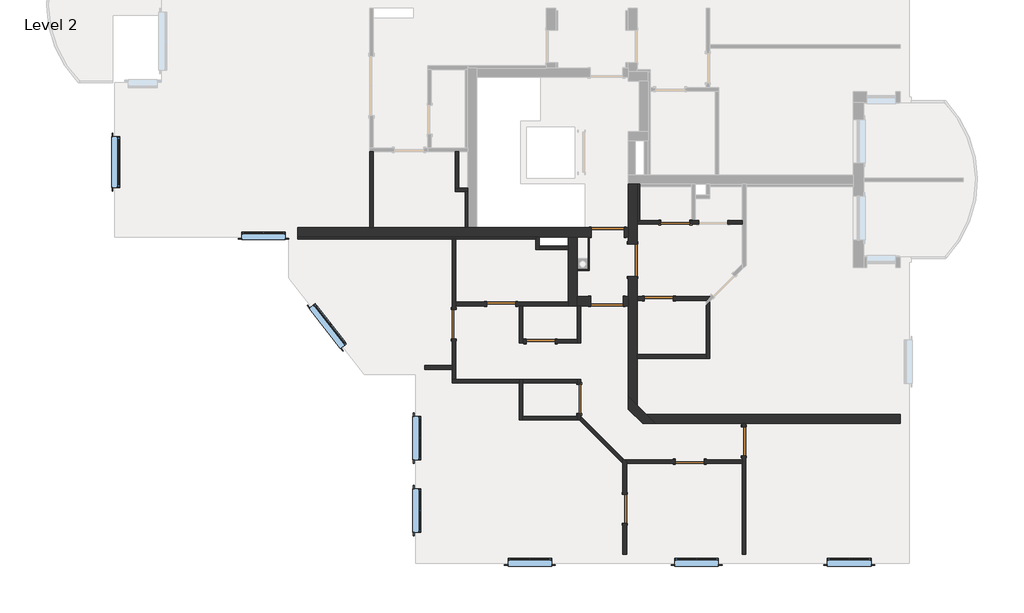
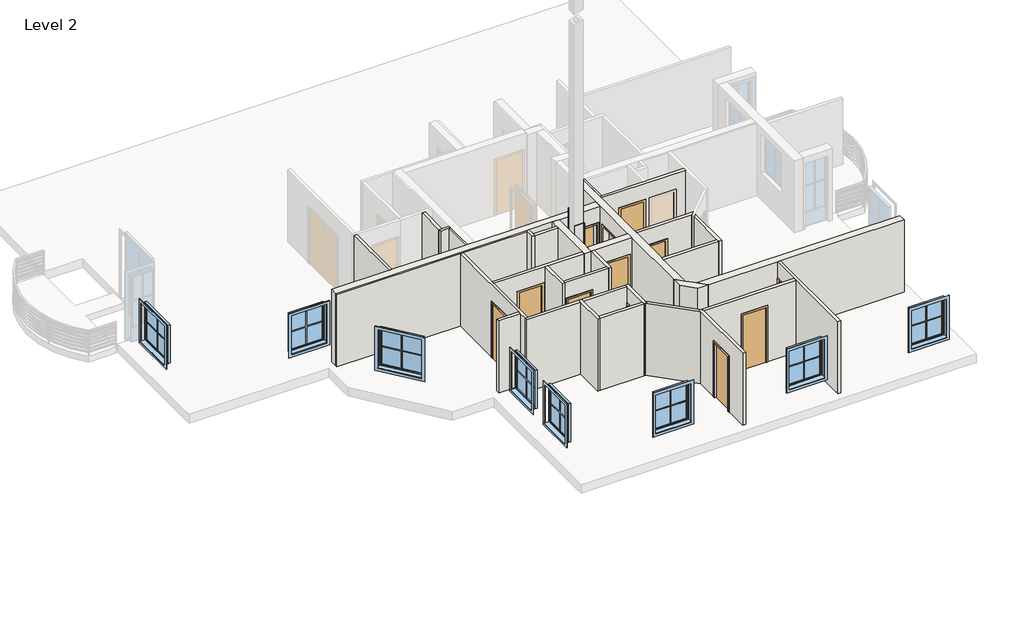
# One storey, part 1 of 4: 35 walls, 12 doors, 8 windows.
"""IFC4 building model written with IfcOpenShell, lengths in millimetres."""

from ifc_helpers import new_model, si_unit, frame, origin, place, context, project, spatial, polyline, outline, extrude, faceted_brep, transform, mapped, element, save
from components import standard_door_sd_800x2000_6a16926d, standard_door_sd_800x2000_80f4ff25, standard_door_sd_900x2000_a6683946, standard_door_sd_900x2000_4224ae2a, standard_window_with_mullions_d3525f46, standard_window_with_mullions_80486b60

model = new_model("IFC4")

# Units and contexts
model_context = context("Model", 3, world=origin())
ifc_project = project(units=[si_unit("LENGTHUNIT", "METRE", prefix="MILLI")], contexts=[model_context])

# Site, building, storey
site = spatial("IfcSite", under=ifc_project)
building = spatial("IfcBuilding", under=site)
storey = spatial("IfcBuildingStorey", under=building, Name="Level 2", Elevation=5900.0)

# Doors
placement = place(None, origin())
standard_door_sd_800x2000_shape = standard_door_sd_800x2000_6a16926d(model_context)
element("IfcDoor", 1, ObjectType="Standard Door : SD 800x2000", at=placement, inside=storey, context=model_context, shape_type="MappedRepresentation", body=[
    mapped(standard_door_sd_800x2000_shape, transform((3260.550214, -8282.3709459, 5900.0), x_axis=(0.9999999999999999, 0.0, 0.0), y_axis=(0.0, 0.9999999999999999, 0.0), z_axis=(0.0, 0.0, 1.0))),
])
standard_door_sd_800x2000_2_shape = standard_door_sd_800x2000_80f4ff25(model_context)
element("IfcDoor", 2, ObjectType="Standard Door : SD 800x2000", at=placement, inside=storey, context=model_context, shape_type="MappedRepresentation", body=[
    mapped(standard_door_sd_800x2000_2_shape, transform((2865.7332503, -1682.3709459, 5900.0), x_axis=(-1.0, 0.0, 0.0), y_axis=(0.0, -1.0, 0.0), z_axis=(0.0, 0.0, 1.0))),
])
element("IfcDoor", 3, ObjectType="Standard Door : SD 800x2000", at=placement, inside=storey, context=model_context, shape_type="MappedRepresentation", body=[
    mapped(standard_door_sd_800x2000_2_shape, transform((2412.0268037, -3782.3709459, 5900.0), x_axis=(1.0, 0.0, 0.0), y_axis=(0.0, 1.0, 0.0), z_axis=(0.0, 0.0, 1.0))),
])
element("IfcDoor", 4, ObjectType="Standard Door : SD 800x2000", at=placement, inside=storey, context=model_context, shape_type="MappedRepresentation", body=[
    mapped(standard_door_sd_800x2000_2_shape, transform((-1935.2960431, -3932.3709459, 5900.0), x_axis=(1.0, 0.0, 0.0), y_axis=(0.0, 1.0, 0.0), z_axis=(0.0, 0.0, 1.0))),
])
element("IfcDoor", 5, ObjectType="Standard Door : SD 800x2000", at=placement, inside=storey, context=model_context, shape_type="MappedRepresentation", body=[
    mapped(standard_door_sd_800x2000_2_shape, transform((-847.1962165, -4962.3709459, 5900.0), x_axis=(1.0, 0.0, 0.0), y_axis=(0.0, 1.0, 0.0), z_axis=(0.0, 0.0, 1.0))),
])
element("IfcDoor", 6, ObjectType="Standard Door : SD 800x2000", at=placement, inside=storey, context=model_context, shape_type="MappedRepresentation", body=[
    mapped(standard_door_sd_800x2000_2_shape, transform((-3237.1962165, -4492.2910381, 5900.0), x_axis=(0.0, 1.0, 0.0), y_axis=(-1.0, 0.0, 0.0), z_axis=(0.0, 0.0, 1.0))),
])
element("IfcDoor", 7, ObjectType="Standard Door : SD 800x2000", at=placement, inside=storey, context=model_context, shape_type="MappedRepresentation", body=[
    mapped(standard_door_sd_800x2000_2_shape, transform((212.8037835, -6551.9513234, 5900.0), x_axis=(0.0, -1.0, 0.0), y_axis=(1.0, 0.0, 0.0), z_axis=(0.0, 0.0, 1.0))),
])
element("IfcDoor", 8, ObjectType="Standard Door : SD 800x2000", at=placement, inside=storey, context=model_context, shape_type="MappedRepresentation", body=[
    mapped(standard_door_sd_800x2000_2_shape, transform((4753.039213, -7722.1014891, 5900.0), x_axis=(0.0, -1.0, 0.0), y_axis=(1.0, 0.0, 0.0), z_axis=(0.0, 0.0, 1.0))),
])
element("IfcDoor", 9, ObjectType="Standard Door : SD 800x2000", at=placement, inside=storey, context=model_context, shape_type="MappedRepresentation", body=[
    mapped(standard_door_sd_800x2000_2_shape, transform((1471.3824272, -9582.3709459, 5900.0), x_axis=(0.0, -0.9999999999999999, 0.0), y_axis=(0.9999999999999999, 0.0, 0.0), z_axis=(0.0, 0.0, 1.0))),
])
standard_door_sd_900x2000_shape = standard_door_sd_900x2000_a6683946(model_context)
element("IfcDoor", 10, ObjectType="Standard Door : SD 900x2000", at=placement, inside=storey, context=model_context, shape_type="MappedRepresentation", body=[
    mapped(standard_door_sd_900x2000_shape, transform((1002.8073642, -1957.3709459, 5900.0), x_axis=(-1.0, 0.0, 0.0), y_axis=(0.0, -1.0, 0.0), z_axis=(0.0, 0.0, 1.0))),
])
standard_door_sd_900x2000_2_shape = standard_door_sd_900x2000_4224ae2a(model_context)
element("IfcDoor", 11, ObjectType="Standard Door : SD 900x2000", at=placement, inside=storey, context=model_context, shape_type="MappedRepresentation", body=[
    mapped(standard_door_sd_900x2000_2_shape, transform((980.1794135, -3857.3709459, 5900.0), x_axis=(-1.0, 0.0, 0.0), y_axis=(0.0, -1.0, 0.0), z_axis=(0.0, 0.0, 1.0))),
])
element("IfcDoor", 12, ObjectType="Standard Door : SD 900x2000", at=placement, inside=storey, context=model_context, shape_type="MappedRepresentation", body=[
    mapped(standard_door_sd_900x2000_2_shape, transform((1687.8070318, -2727.079256, 5900.0), x_axis=(-8.145451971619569e-07, -0.9999999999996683, 0.0), y_axis=(0.9999999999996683, -8.145451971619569e-07, 0.0), z_axis=(0.0, 0.0, 1.0))),
])

# Walls
element("IfcWall", 13, ObjectType="Interior - 100mm", at=placement, inside=storey, context=model_context, shape_type="SweptSolid", body=[
    extrude(outline(polyline([(-3207.1962165, -732.3709459), (-3207.1962165, 267.6290541), (-3107.1962165, 267.6290541), (-3107.1962165, -732.3709459), (-3207.1962165, -732.3709459)])), frame((0.0, 0.0, 5900.0), z_axis=(0.0, 0.0, 1.0), x_axis=(1.0, 0.0, 0.0)), (0.0, 0.0, 1.0), 2630.0),
])
element("IfcWall", 14, ObjectType="Interior - 100mm", at=placement, inside=storey, context=model_context, shape_type="Brep", body=[
    faceted_brep([(-3207.1962165, -832.3709459, 5900.0), (-2922.1962165, -832.3709459, 5900.0), (-2857.1962165, -832.3709459, 5900.0), (-2857.1962165, -832.3709459, 8530.0), (-2922.1962165, -832.3709459, 8530.0), (-3207.1962165, -832.3709459, 8530.0), (-3207.1962165, -732.3709459, 5900.0), (-3207.1962165, -732.3709459, 8530.0), (-3107.1962165, -732.3709459, 8530.0), (-2857.1962165, -732.3709459, 8530.0), (-2857.1962165, -732.3709459, 5900.0), (-3107.1962165, -732.3709459, 5900.0)], [[[0, 1, 2, 3, 4, 5]], [[6, 7, 8, 9, 10, 11]], [[2, 1, 0, 6, 11, 10]], [[0, 5, 7, 6]], [[3, 2, 10, 9]], [[5, 4, 3, 9, 8, 7]]]),
])
element("IfcWall", 15, ObjectType="Interior - 100mm", at=placement, inside=storey, context=model_context, shape_type="Brep", body=[
    faceted_brep([(-986.4381272, -2082.3709459, 5900.0), (-986.4381272, -2147.3709459, 5900.0), (-986.4381272, -2432.3709459, 5900.0), (-986.4381272, -2432.3709459, 8530.0), (-986.4381272, -2147.3709459, 8530.0), (-986.4381272, -2082.3709459, 8530.0), (-886.4381272, -2082.3709459, 5900.0), (-886.4381272, -2082.3709459, 8530.0), (-886.4381272, -2332.3709459, 8530.0), (-886.4381272, -2432.3709459, 8530.0), (-886.4381272, -2432.3709459, 5900.0), (-886.4381272, -2332.3709459, 5900.0)], [[[0, 1, 2, 3, 4, 5]], [[6, 7, 8, 9, 10, 11]], [[2, 1, 0, 6, 11, 10]], [[3, 2, 10, 9]], [[0, 5, 7, 6]], [[5, 4, 3, 9, 8, 7]]]),
])
element("IfcWall", 16, ObjectType="Interior - 100mm", at=placement, inside=storey, context=model_context, shape_type="SweptSolid", body=[
    extrude(outline(polyline([(-86.4381272, -2432.3709459), (-886.4381272, -2432.3709459), (-886.4381272, -2332.3709459), (-86.4381272, -2332.3709459), (-86.4381272, -2432.3709459)])), frame((0.0, 0.0, 5900.0), z_axis=(0.0, 0.0, 1.0), x_axis=(1.0, 0.0, 0.0)), (0.0, 0.0, 1.0), 2630.0),
])
element("IfcWall", 17, ObjectType="Interior - 100mm", at=placement, inside=storey, context=model_context, shape_type="Brep", body=[
    faceted_brep([(4703.039213, -7232.3709459, 5900.0), (4803.039213, -7232.3709459, 5900.0), (4803.039213, -7322.1014891, 5900.0), (4703.039213, -7322.1014891, 5900.0), (4803.039213, -10832.3709459, 5900.0), (4703.039213, -10832.3709459, 5900.0), (4703.039213, -8332.3709459, 5900.0), (4703.039213, -8232.3709459, 5900.0), (4703.039213, -8122.1014891, 5900.0), (4803.039213, -8122.1014891, 5900.0), (4703.039213, -7232.3709459, 8530.0), (4703.039213, -7322.1014891, 7900.0), (4703.039213, -8122.1014891, 7900.0), (4703.039213, -10832.3709459, 8530.0), (4703.039213, -8332.3709459, 8530.0), (4703.039213, -8232.3709459, 8530.0), (4803.039213, -7232.3709459, 8530.0), (4803.039213, -10832.3709459, 8530.0), (4803.039213, -8122.1014891, 7900.0), (4803.039213, -7322.1014891, 7900.0)], [[[0, 1, 2, 3]], [[4, 5, 6, 7, 8, 9]], [[10, 0, 3, 11, 12, 8, 7, 6, 5, 13, 14, 15]], [[1, 16, 17, 4, 9, 18, 19, 2]], [[0, 10, 16, 1]], [[13, 5, 4, 17]], [[10, 15, 14, 13, 17, 16]], [[12, 18, 9, 8]], [[18, 12, 11, 19]], [[19, 11, 3, 2]]]),
])
element("IfcWall", 18, ObjectType="Interior - 100mm", at=placement, inside=storey, context=model_context, shape_type="Brep", body=[
    faceted_brep([(1421.3824272, -10832.3709459, 5900.0), (1421.3824272, -9982.3709459, 5900.0), (1521.3824272, -9982.3709459, 5900.0), (1521.3824272, -10832.3709459, 5900.0), (1421.3824272, -9182.3709459, 5900.0), (1421.3824272, -8332.3709459, 5900.0), (1421.3824272, -8190.9495897, 5900.0), (1462.8037835, -8232.3709459, 5900.0), (1521.3824272, -8290.9495897, 5900.0), (1521.3824272, -8332.3709459, 5900.0), (1521.3824272, -9182.3709459, 5900.0), (1421.3824272, -9982.3709459, 7900.0), (1421.3824272, -10832.3709459, 8530.0), (1421.3824272, -8332.3709459, 8530.0), (1421.3824272, -8190.9495897, 8530.0), (1421.3824272, -9182.3709459, 7900.0), (1521.3824272, -9982.3709459, 7900.0), (1521.3824272, -9182.3709459, 7900.0), (1521.3824272, -8290.9495897, 8530.0), (1521.3824272, -8332.3709459, 8530.0), (1521.3824272, -10832.3709459, 8530.0), (1462.8037835, -8232.3709459, 8530.0)], [[[0, 1, 2, 3]], [[4, 5, 6, 7, 8, 9, 10]], [[11, 1, 0, 12, 13, 14, 6, 5, 4, 15]], [[3, 2, 16, 17, 10, 9, 8, 18, 19, 20]], [[6, 14, 21, 18, 8, 7]], [[12, 0, 3, 20]], [[14, 13, 12, 20, 19, 18, 21]], [[16, 2, 1, 11]], [[17, 16, 11, 15]], [[10, 17, 15, 4]]]),
])
element("IfcWall", 19, ObjectType="Interior - 100mm", at=placement, inside=storey, context=model_context, shape_type="Brep", body=[
    faceted_brep([(3712.8037835, -3973.7923022, 5900.0), (3712.8037835, -5332.3709459, 5900.0), (3712.8037835, -5432.3709459, 5900.0), (3712.8037835, -5432.3709459, 8530.0), (3712.8037835, -5332.3709459, 8530.0), (3712.8037835, -3973.7923022, 8530.0), (3812.8037835, -3873.7923022, 5900.0), (3812.8037835, -3873.7923022, 8530.0), (3812.8037835, -5432.3709459, 8530.0), (3812.8037835, -5432.3709459, 5900.0)], [[[0, 1, 2, 3, 4, 5]], [[6, 7, 8, 9]], [[2, 1, 0, 6, 9]], [[3, 2, 9, 8]], [[0, 5, 7, 6]], [[5, 4, 3, 8, 7]]]),
])
element("IfcWall", 20, ObjectType="Interior - 100mm", at=placement, inside=storey, context=model_context, shape_type="SweptSolid", body=[
    extrude(outline(polyline([(1812.8049097, -5332.3709459), (3712.8037835, -5332.3709459), (3712.8037835, -5432.3709459), (1812.8048282, -5432.3709459), (1812.8049097, -5332.3709459)])), frame((0.0, 0.0, 5900.0), z_axis=(0.0, 0.0, 1.0), x_axis=(1.0, 0.0, 0.0)), (0.0, 0.0, 1.0), 2630.0),
])
element("IfcWall", 21, ObjectType="Interior - 100mm", at=placement, inside=storey, context=model_context, shape_type="Brep", body=[
    faceted_brep([(3712.8037835, -3832.3709459, 5900.0), (2812.0268037, -3832.3709459, 5900.0), (2812.0268037, -3732.3709459, 5900.0), (3812.8037835, -3732.3709459, 5900.0), (2012.0268037, -3832.3709459, 5900.0), (1812.8061315, -3832.3709459, 5900.0), (1812.806213, -3732.3709459, 5900.0), (2012.0268037, -3732.3709459, 5900.0), (2812.0268037, -3732.3709459, 7900.0), (2012.0268037, -3732.3709459, 7900.0), (1812.806213, -3732.3709459, 8530.0), (3812.8037835, -3732.3709459, 8530.0), (2812.0268037, -3832.3709459, 7900.0), (3712.8037835, -3832.3709459, 8530.0), (1812.8061315, -3832.3709459, 8530.0), (2012.0268037, -3832.3709459, 7900.0)], [[[0, 1, 2, 3]], [[4, 5, 6, 7]], [[3, 2, 8, 9, 7, 6, 10, 11]], [[12, 1, 0, 13, 14, 5, 4, 15]], [[10, 6, 5, 14]], [[3, 11, 13, 0]], [[11, 10, 14, 13]], [[8, 2, 1, 12]], [[9, 8, 12, 15]], [[7, 9, 15, 4]]]),
])
element("IfcWall", 22, ObjectType="Interior - 100mm", at=placement, inside=storey, context=model_context, shape_type="Brep", body=[
    faceted_brep([(4712.8037835, -1732.3709459, 5900.0), (4309.4426418, -1732.3709459, 5900.0), (4309.4426418, -1632.3709459, 5900.0), (4712.8037835, -1632.3709459, 5900.0), (1812.8079235, -1632.3709459, 5900.0), (1877.8037835, -1632.3709459, 5900.0), (2465.7332503, -1632.3709459, 5900.0), (2465.7332503, -1732.3709459, 5900.0), (1812.8078421, -1732.3709459, 5900.0), (3265.7332503, -1632.3709459, 5900.0), (3312.8037835, -1632.3709459, 5900.0), (3412.8037835, -1632.3709459, 5900.0), (3509.4426418, -1632.3709459, 5900.0), (3509.4426418, -1732.3709459, 5900.0), (3265.7332503, -1732.3709459, 5900.0), (2465.7332503, -1632.3709459, 7900.0), (1812.8079235, -1632.3709459, 8530.0), (1877.8037835, -1632.3709459, 8530.0), (3312.8037835, -1632.3709459, 8530.0), (3412.8037835, -1632.3709459, 8530.0), (4712.8037835, -1632.3709459, 8530.0), (4309.4426418, -1632.3709459, 7900.0), (3509.4426418, -1632.3709459, 7900.0), (3265.7332503, -1632.3709459, 7900.0), (2465.7332503, -1732.3709459, 7900.0), (3265.7332503, -1732.3709459, 7900.0), (3509.4426418, -1732.3709459, 7900.0), (4309.4426418, -1732.3709459, 7900.0), (4712.8037835, -1732.3709459, 8530.0), (1812.8078421, -1732.3709459, 8530.0)], [[[0, 1, 2, 3]], [[4, 5, 6, 7, 8]], [[9, 10, 11, 12, 13, 14]], [[15, 6, 5, 4, 16, 17, 18, 19, 20, 3, 2, 21, 22, 12, 11, 10, 9, 23]], [[8, 7, 24, 25, 14, 13, 26, 27, 1, 0, 28, 29]], [[16, 4, 8, 29]], [[3, 20, 28, 0]], [[20, 19, 18, 17, 16, 29, 28]], [[21, 2, 1, 27]], [[22, 21, 27, 26]], [[12, 22, 26, 13]], [[24, 7, 6, 15]], [[25, 24, 15, 23]], [[14, 25, 23, 9]]]),
])
element("IfcWall", 23, ObjectType="Interior - 100mm", at=placement, inside=storey, context=model_context, shape_type="SweptSolid", body=[
    extrude(outline(polyline([(-5457.1962165, 267.6290541), (-5457.1962165, -1832.3709459), (-5557.1962165, -1832.3709459), (-5557.1962165, 267.6290541), (-5457.1962165, 267.6290541)])), frame((0.0, 0.0, 5900.0), z_axis=(0.0, 0.0, 1.0), x_axis=(1.0, 0.0, 0.0)), (0.0, 0.0, 1.0), 2630.0),
])
element("IfcWall", 24, ObjectType="Interior - 100mm", at=placement, inside=storey, context=model_context, shape_type="Brep", body=[
    faceted_brep([(4703.039213, -8332.3709459, 5900.0), (3660.550214, -8332.3709459, 5900.0), (3660.550214, -8232.3709459, 5900.0), (4703.039213, -8232.3709459, 5900.0), (2860.550214, -8332.3709459, 5900.0), (1521.3824272, -8332.3709459, 5900.0), (1521.3824272, -8290.9495897, 5900.0), (1462.8037835, -8232.3709459, 5900.0), (2860.550214, -8232.3709459, 5900.0), (3660.550214, -8232.3709459, 7900.0), (2860.550214, -8232.3709459, 7900.0), (1462.8037835, -8232.3709459, 8530.0), (4703.039213, -8232.3709459, 8530.0), (3660.550214, -8332.3709459, 7900.0), (4703.039213, -8332.3709459, 8530.0), (1521.3824272, -8332.3709459, 8530.0), (2860.550214, -8332.3709459, 7900.0), (1521.3824272, -8290.9495897, 8530.0)], [[[0, 1, 2, 3]], [[4, 5, 6, 7, 8]], [[3, 2, 9, 10, 8, 7, 11, 12]], [[13, 1, 0, 14, 15, 5, 4, 16]], [[3, 12, 14, 0]], [[11, 7, 6, 17]], [[6, 5, 15, 17]], [[12, 11, 17, 15, 14]], [[9, 2, 1, 13]], [[10, 9, 13, 16]], [[8, 10, 16, 4]]]),
])
element("IfcWall", 25, ObjectType="Interior - 100mm", at=placement, inside=storey, context=model_context, shape_type="SweptSolid", body=[
    extrude(outline(polyline([(1421.3824272, -8332.3709459), (221.3824272, -7132.3709459), (262.8037835, -7132.3709459), (262.8037835, -7032.3709459), (1421.3824272, -8190.9495897), (1421.3824272, -8332.3709459)])), frame((0.0, 0.0, 5900.0), z_axis=(0.0, 0.0, 1.0), x_axis=(1.0, 0.0, 0.0)), (0.0, 0.0, 1.0), 2630.0),
])
element("IfcWall", 26, ObjectType="Interior - 100mm", at=placement, inside=storey, context=model_context, shape_type="SweptSolid", body=[
    extrude(outline(polyline([(7900.0, -447.1962165), (5900.0, -447.1962165), (5900.0, 162.8037835), (8530.0, 162.8037835), (8530.0, -1337.1962165), (5900.0, -1337.1962165), (5900.0, -1247.1962165), (7900.0, -1247.1962165), (7900.0, -447.1962165)])), frame((0.0, -5012.3709459, 0.0), z_axis=(0.0, 1.0, 0.0), x_axis=(0.0, 0.0, 1.0)), (0.0, 0.0, 1.0), 100.0),
])
element("IfcWall", 27, ObjectType="Interior - 100mm", at=placement, inside=storey, context=model_context, shape_type="Brep", body=[
    faceted_brep([(-1337.1962165, -7132.3709459, 5900.0), (-1337.1962165, -7032.3709459, 5900.0), (-1337.1962165, -6112.3709459, 5900.0), (-1337.1962165, -6012.3709459, 5900.0), (-1337.1962165, -6012.3709459, 8530.0), (-1337.1962165, -6112.3709459, 8530.0), (-1337.1962165, -7032.3709459, 8530.0), (-1337.1962165, -7132.3709459, 8530.0), (-1437.1962165, -7132.3709459, 5900.0), (-1437.1962165, -7132.3709459, 8530.0), (-1437.1962165, -6112.3709459, 8530.0), (-1437.1962165, -6012.3709459, 8530.0), (-1437.1962165, -6012.3709459, 5900.0), (-1437.1962165, -6112.3709459, 5900.0)], [[[0, 1, 2, 3, 4, 5, 6, 7]], [[8, 9, 10, 11, 12, 13]], [[3, 2, 1, 0, 8, 13, 12]], [[0, 7, 9, 8]], [[4, 3, 12, 11]], [[7, 6, 5, 4, 11, 10, 9]]]),
])
element("IfcWall", 28, ObjectType="Interior - 100mm", at=placement, inside=storey, context=model_context, shape_type="SweptSolid", body=[
    extrude(outline(polyline([(-1337.1962165, -7032.3709459), (162.8037835, -7032.3709459), (162.8037835, -7132.3709459), (-1337.1962165, -7132.3709459), (-1337.1962165, -7032.3709459)])), frame((0.0, 0.0, 5900.0), z_axis=(0.0, 0.0, 1.0), x_axis=(1.0, 0.0, 0.0)), (0.0, 0.0, 1.0), 2630.0),
])
element("IfcWall", 29, ObjectType="Interior - 100mm", at=placement, inside=storey, context=model_context, shape_type="Brep", body=[
    faceted_brep([(162.8037835, -3982.3709459, 5900.0), (162.8037835, -4912.3709459, 5900.0), (162.8037835, -5012.3709459, 5900.0), (162.8037835, -5012.3709459, 8530.0), (162.8037835, -4912.3709459, 8530.0), (162.8037835, -3982.3709459, 8530.0), (262.8037835, -3982.3709459, 5900.0), (262.8037835, -3982.3709459, 8530.0), (262.8037835, -5012.3709459, 8530.0), (262.8037835, -5012.3709459, 5900.0), (163.5618728, -3982.3709459, 5900.0), (163.5618728, -3982.3709459, 8530.0)], [[[0, 1, 2, 3, 4, 5]], [[6, 7, 8, 9]], [[2, 1, 0, 10, 6, 9]], [[3, 2, 9, 8]], [[0, 5, 11, 7, 6, 10]], [[5, 4, 3, 8, 7, 11]]]),
])
element("IfcWall", 30, ObjectType="Interior - 100mm", at=placement, inside=storey, context=model_context, shape_type="SweptSolid", body=[
    extrude(outline(polyline([(162.8037835, -6112.3709459), (-1337.1962165, -6112.3709459), (-1337.1962165, -6012.3709459), (162.8037835, -6012.3709459), (162.8037835, -6112.3709459)])), frame((0.0, 0.0, 5900.0), z_axis=(0.0, 0.0, 1.0), x_axis=(1.0, 0.0, 0.0)), (0.0, 0.0, 1.0), 2630.0),
])
element("IfcWall", 31, ObjectType="Interior - 100mm", at=placement, inside=storey, context=model_context, shape_type="SweptSolid", body=[
    extrude(outline(polyline([(-3287.1962165, -5732.3709459), (-4037.1962165, -5732.3709459), (-4037.1962165, -5632.3709459), (-3287.1962165, -5632.3709459), (-3287.1962165, -5732.3709459)])), frame((0.0, 0.0, 5900.0), z_axis=(0.0, 0.0, 1.0), x_axis=(1.0, 0.0, 0.0)), (0.0, 0.0, 1.0), 2630.0),
])
element("IfcWall", 32, ObjectType="Interior - 100mm", at=placement, inside=storey, context=model_context, shape_type="Brep", body=[
    faceted_brep([(-3187.1962165, -2147.3709459, 5900.0), (-3187.1962165, -3882.3709459, 5900.0), (-3187.1962165, -3982.3709459, 5900.0), (-3187.1962165, -4092.2910381, 5900.0), (-3287.1962165, -4092.2910381, 5900.0), (-3287.1962165, -2147.3709459, 5900.0), (-3187.1962165, -4892.2910381, 5900.0), (-3187.1962165, -6012.3709459, 5900.0), (-3287.1962165, -6012.3709459, 5900.0), (-3287.1962165, -5732.3709459, 5900.0), (-3287.1962165, -5632.3709459, 5900.0), (-3287.1962165, -4892.2910381, 5900.0), (-3287.1962165, -4092.2910381, 7900.0), (-3287.1962165, -4892.2910381, 7900.0), (-3287.1962165, -6012.3709459, 8530.0), (-3287.1962165, -5732.3709459, 8530.0), (-3287.1962165, -5632.3709459, 8530.0), (-3287.1962165, -2147.3709459, 8530.0), (-3187.1962165, -4092.2910381, 7900.0), (-3187.1962165, -2147.3709459, 8530.0), (-3187.1962165, -3882.3709459, 8530.0), (-3187.1962165, -3982.3709459, 8530.0), (-3187.1962165, -6012.3709459, 8530.0), (-3187.1962165, -4892.2910381, 7900.0)], [[[0, 1, 2, 3, 4, 5]], [[6, 7, 8, 9, 10, 11]], [[5, 4, 12, 13, 11, 10, 9, 8, 14, 15, 16, 17]], [[18, 3, 2, 1, 0, 19, 20, 21, 22, 7, 6, 23]], [[5, 17, 19, 0]], [[14, 8, 7, 22]], [[17, 16, 15, 14, 22, 21, 20, 19]], [[12, 4, 3, 18]], [[13, 12, 18, 23]], [[11, 13, 23, 6]]]),
])
element("IfcWall", 33, ObjectType="Interior - 100mm", at=placement, inside=storey, context=model_context, shape_type="Brep", body=[
    faceted_brep([(-86.4381272, -3982.3709459, 5900.0), (-1337.1962165, -3982.3709459, 5900.0), (-1437.1962165, -3982.3709459, 5900.0), (-1535.2960431, -3982.3709459, 5900.0), (-1535.2960431, -3882.3709459, 5900.0), (-86.4381272, -3882.3709459, 5900.0), (-2335.2960431, -3982.3709459, 5900.0), (-3187.1962165, -3982.3709459, 5900.0), (-3187.1962165, -3882.3709459, 5900.0), (-2335.2960431, -3882.3709459, 5900.0), (-1535.2960431, -3882.3709459, 7900.0), (-2335.2960431, -3882.3709459, 7900.0), (-3187.1962165, -3882.3709459, 8530.0), (-86.4381272, -3882.3709459, 8530.0), (-1535.2960431, -3982.3709459, 7900.0), (-86.4381272, -3982.3709459, 8530.0), (-1337.1962165, -3982.3709459, 8530.0), (-1437.1962165, -3982.3709459, 8530.0), (-3187.1962165, -3982.3709459, 8530.0), (-2335.2960431, -3982.3709459, 7900.0)], [[[0, 1, 2, 3, 4, 5]], [[6, 7, 8, 9]], [[5, 4, 10, 11, 9, 8, 12, 13]], [[14, 3, 2, 1, 0, 15, 16, 17, 18, 7, 6, 19]], [[12, 8, 7, 18]], [[5, 13, 15, 0]], [[13, 12, 18, 17, 16, 15]], [[10, 4, 3, 14]], [[11, 10, 14, 19]], [[9, 11, 19, 6]]]),
])
element("IfcWall", 34, ObjectType="Interior - 100mm", at=placement, inside=storey, context=model_context, shape_type="Brep", body=[
    faceted_brep([(-3287.1962165, -6112.3709459, 5900.0), (-1437.1962165, -6112.3709459, 5900.0), (-1437.1962165, -6112.3709459, 8530.0), (-3287.1962165, -6112.3709459, 8530.0), (-3287.1962165, -6012.3709459, 5900.0), (-3287.1962165, -6012.3709459, 8530.0), (-3187.1962165, -6012.3709459, 8530.0), (-1437.1962165, -6012.3709459, 8530.0), (-1437.1962165, -6012.3709459, 5900.0), (-3187.1962165, -6012.3709459, 5900.0)], [[[0, 1, 2, 3]], [[4, 5, 6, 7, 8, 9]], [[1, 0, 4, 9, 8]], [[0, 3, 5, 4]], [[2, 1, 8, 7]], [[3, 2, 7, 6, 5]]]),
])
element("IfcWall", 35, ObjectType="Interior - 100mm", at=placement, inside=storey, context=model_context, shape_type="Brep", body=[
    faceted_brep([(-1337.1962165, -5012.3709459, 5900.0), (-1337.1962165, -4912.3709459, 5900.0), (-1337.1962165, -3982.3709459, 5900.0), (-1337.1962165, -3982.3709459, 8530.0), (-1337.1962165, -4912.3709459, 8530.0), (-1337.1962165, -5012.3709459, 8530.0), (-1437.1962165, -5012.3709459, 5900.0), (-1437.1962165, -5012.3709459, 8530.0), (-1437.1962165, -3982.3709459, 8530.0), (-1437.1962165, -3982.3709459, 5900.0)], [[[0, 1, 2, 3, 4, 5]], [[6, 7, 8, 9]], [[2, 1, 0, 6, 9]], [[0, 5, 7, 6]], [[3, 2, 9, 8]], [[5, 4, 3, 8, 7]]]),
])
element("IfcWall", 36, ObjectType="Interior - 100mm", at=placement, inside=storey, context=model_context, shape_type="Brep", body=[
    faceted_brep([(162.8037835, -6951.9513234, 7900.0), (162.8037835, -6951.9513234, 5900.0), (162.8037835, -7032.3709459, 5900.0), (162.8037835, -7132.3709459, 5900.0), (162.8037835, -7132.3709459, 8530.0), (162.8037835, -7032.3709459, 8530.0), (162.8037835, -6112.3709459, 8530.0), (162.8037835, -6012.3709459, 8530.0), (162.8037835, -6012.3709459, 5900.0), (162.8037835, -6112.3709459, 5900.0), (162.8037835, -6151.9513234, 5900.0), (162.8037835, -6151.9513234, 7900.0), (262.8037835, -7132.3709459, 5900.0), (262.8037835, -7032.3709459, 5900.0), (262.8037835, -6951.9513234, 5900.0), (262.8037835, -6951.9513234, 7900.0), (262.8037835, -6151.9513234, 7900.0), (262.8037835, -6151.9513234, 5900.0), (262.8037835, -6012.3709459, 5900.0), (262.8037835, -6012.3709459, 8530.0), (262.8037835, -7032.3709459, 8530.0), (262.8037835, -7132.3709459, 8530.0), (221.3824272, -7132.3709459, 5900.0), (221.3824272, -7132.3709459, 8530.0)], [[[0, 1, 2, 3, 4, 5, 6, 7, 8, 9, 10, 11]], [[12, 13, 14, 15, 16, 17, 18, 19, 20, 21]], [[3, 2, 1, 14, 13, 12, 22]], [[10, 9, 8, 18, 17]], [[4, 3, 22, 12, 21, 23]], [[8, 7, 19, 18]], [[7, 6, 5, 4, 23, 21, 20, 19]], [[15, 14, 1, 0]], [[16, 15, 0, 11]], [[17, 16, 11, 10]]]),
])
element("IfcWall", 37, ObjectType="Interior - 250mm", at=placement, inside=storey, context=model_context, shape_type="Brep", body=[
    faceted_brep([(-7537.1962165, -1832.3709459, 5900.0), (-5557.1962165, -1832.3709459, 5900.0), (-5457.1962165, -1832.3709459, 5900.0), (-2922.1962165, -1832.3709459, 5900.0), (-2857.1962165, -1832.3709459, 5900.0), (-2607.1962165, -1832.3709459, 5900.0), (552.8073642, -1832.3709459, 5900.0), (552.8073642, -2082.3709459, 5900.0), (493.5618728, -2082.3709459, 5900.0), (463.5618728, -2082.3709459, 5900.0), (163.5618728, -2082.3709459, 5900.0), (-86.4381272, -2082.3709459, 5900.0), (-886.4381272, -2082.3709459, 5900.0), (-986.4381272, -2082.3709459, 5900.0), (-7537.1962165, -2082.3709459, 5900.0), (1452.8073642, -1832.3709459, 5900.0), (1562.8077606, -1832.3709459, 5900.0), (1562.807557, -2082.3709459, 5900.0), (1452.8073642, -2082.3709459, 5900.0), (552.8073642, -2082.3709459, 7900.0), (1452.8073642, -2082.3709459, 7900.0), (1562.807557, -2082.3709459, 8530.0), (163.5618728, -2082.3709459, 8530.0), (-86.4381272, -2082.3709459, 8530.0), (-886.4381272, -2082.3709459, 8530.0), (-986.4381272, -2082.3709459, 8530.0), (-7537.1962165, -2082.3709459, 8530.0), (552.8073642, -1832.3709459, 7900.0), (-7537.1962165, -1832.3709459, 8530.0), (-5557.1962165, -1832.3709459, 8530.0), (-5457.1962165, -1832.3709459, 8530.0), (-2922.1962165, -1832.3709459, 8530.0), (-2857.1962165, -1832.3709459, 8530.0), (-2607.1962165, -1832.3709459, 8530.0), (362.8037835, -1832.3709459, 8530.0), (1562.8077606, -1832.3709459, 8530.0), (1452.8073642, -1832.3709459, 7900.0)], [[[0, 1, 2, 3, 4, 5, 6, 7, 8, 9, 10, 11, 12, 13, 14]], [[15, 16, 17, 18]], [[14, 13, 12, 11, 10, 9, 8, 7, 19, 20, 18, 17, 21, 22, 23, 24, 25, 26]], [[27, 6, 5, 4, 3, 2, 1, 0, 28, 29, 30, 31, 32, 33, 34, 35, 16, 15, 36]], [[21, 17, 16, 35]], [[14, 26, 28, 0]], [[26, 25, 24, 23, 22, 21, 35, 34, 33, 32, 31, 30, 29, 28]], [[19, 7, 6, 27]], [[20, 19, 27, 36]], [[18, 20, 36, 15]]]),
])
element("IfcWall", 38, ObjectType="Interior - 250mm", at=placement, inside=storey, context=model_context, shape_type="Brep", body=[
    faceted_brep([(1562.803973, -6482.3711354, 5900.0), (1562.8060093, -3982.3709459, 5900.0), (1562.806213, -3732.3709459, 5900.0), (1562.8066653, -3177.0791542, 5900.0), (1812.8066653, -3177.0793578, 5900.0), (1812.806213, -3732.3709459, 5900.0), (1812.8061315, -3832.3709459, 5900.0), (1812.8049097, -5332.3709459, 5900.0), (1812.8048282, -5432.3709459, 5900.0), (1812.8037693, -6732.3709318, 5900.0), (1562.8073984, -2277.0791542, 5900.0), (1562.807557, -2082.3709459, 5900.0), (1562.8077606, -1832.3709459, 5900.0), (1562.8087381, -632.3709459, 5900.0), (1812.8087381, -632.3709459, 5900.0), (1812.8079235, -1632.3709459, 5900.0), (1812.8078421, -1732.3709459, 5900.0), (1812.8073984, -2277.0793578, 5900.0), (1562.8066653, -3177.0791542, 7900.0), (1562.803973, -6482.3711354, 8530.0), (1562.8060093, -3982.3709459, 8530.0), (1562.806213, -3732.3709459, 8530.0), (1562.807557, -2082.3709459, 8530.0), (1562.8077606, -1832.3709459, 8530.0), (1562.8087381, -632.3709459, 8530.0), (1562.8073984, -2277.0791542, 7900.0), (1812.8066653, -3177.0793578, 7900.0), (1812.8073984, -2277.0793578, 7900.0), (1812.8087381, -632.3709459, 8530.0), (1812.8079235, -1632.3709459, 8530.0), (1812.8078421, -1732.3709459, 8530.0), (1812.806213, -3732.3709459, 8530.0), (1812.8061315, -3832.3709459, 8530.0), (1812.8049097, -5332.3709459, 8530.0), (1812.8048282, -5432.3709459, 8530.0), (1812.8037693, -6732.3709318, 8530.0)], [[[0, 1, 2, 3, 4, 5, 6, 7, 8, 9]], [[10, 11, 12, 13, 14, 15, 16, 17]], [[18, 3, 2, 1, 0, 19, 20, 21, 22, 23, 24, 13, 12, 11, 10, 25]], [[9, 8, 7, 6, 5, 4, 26, 27, 17, 16, 15, 14, 28, 29, 30, 31, 32, 33, 34, 35]], [[13, 24, 28, 14]], [[19, 0, 9, 35]], [[24, 23, 22, 21, 20, 19, 35, 34, 33, 32, 31, 30, 29, 28]], [[26, 4, 3, 18]], [[27, 26, 18, 25]], [[17, 27, 25, 10]]]),
])
element("IfcWall", 39, ObjectType="Interior - 250mm", at=placement, inside=storey, context=model_context, shape_type="Brep", body=[
    faceted_brep([(-86.4381272, -2082.3709459, 5900.0), (-86.4381272, -2332.3709459, 5900.0), (-86.4381272, -2432.3709459, 5900.0), (-86.4381272, -3882.3709459, 5900.0), (-86.4381272, -3982.3709459, 5900.0), (-86.4381272, -3982.3709459, 8530.0), (-86.4381272, -3882.3709459, 8530.0), (-86.4381272, -2432.3709459, 8530.0), (-86.4381272, -2332.3709459, 8530.0), (-86.4381272, -2082.3709459, 8530.0), (163.5618728, -2082.3709459, 5900.0), (163.5618728, -2082.3709459, 8530.0), (163.5618728, -3732.3709459, 8530.0), (163.5618728, -3982.3709459, 8530.0), (163.5618728, -3982.3709459, 5900.0), (163.5618728, -3732.3709459, 5900.0), (163.5618728, -3012.3709459, 5900.0), (163.5618728, -2982.3709459, 5900.0)], [[[0, 1, 2, 3, 4, 5, 6, 7, 8, 9]], [[10, 11, 12, 13, 14, 15, 16, 17]], [[4, 3, 2, 1, 0, 10, 17, 16, 15, 14]], [[5, 4, 14, 13]], [[0, 9, 11, 10]], [[9, 8, 7, 6, 5, 13, 12, 11]]]),
])
element("IfcWall", 40, ObjectType="Interior - 250mm", at=placement, inside=storey, context=model_context, shape_type="Brep", body=[
    faceted_brep([(163.5618728, -3732.3709459, 5900.0), (530.1794135, -3732.3709459, 5900.0), (530.1794135, -3982.3709459, 5900.0), (262.8037835, -3982.3709459, 5900.0), (163.5618728, -3982.3709459, 5900.0), (1430.1794135, -3732.3709459, 5900.0), (1562.806213, -3732.3709459, 5900.0), (1562.8060093, -3982.3709459, 5900.0), (1430.1794135, -3982.3709459, 5900.0), (530.1794135, -3982.3709459, 7900.0), (1430.1794135, -3982.3709459, 7900.0), (1562.8060093, -3982.3709459, 8530.0), (262.8037835, -3982.3709459, 8530.0), (163.5618728, -3982.3709459, 8530.0), (530.1794135, -3732.3709459, 7900.0), (163.5618728, -3732.3709459, 8530.0), (1562.806213, -3732.3709459, 8530.0), (1430.1794135, -3732.3709459, 7900.0)], [[[0, 1, 2, 3, 4]], [[5, 6, 7, 8]], [[4, 3, 2, 9, 10, 8, 7, 11, 12, 13]], [[14, 1, 0, 15, 16, 6, 5, 17]], [[4, 13, 15, 0]], [[11, 7, 6, 16]], [[13, 12, 11, 16, 15]], [[9, 2, 1, 14]], [[10, 9, 14, 17]], [[8, 10, 17, 5]]]),
])
element("IfcWall", 41, ObjectType="Interior - 250mm", at=placement, inside=storey, context=model_context, shape_type="Brep", body=[
    faceted_brep([(1562.803685, -6835.924238, 5900.0), (1959.2503929, -7232.3709459, 5900.0), (1959.2503929, -7232.3709459, 8530.0), (1562.803685, -6835.924238, 8530.0), (1562.803973, -6482.3711354, 5900.0), (1562.803973, -6482.3711354, 8530.0), (1812.8037693, -6732.3709318, 8530.0), (2062.8037835, -6982.3709459, 8530.0), (2312.8037835, -7232.3709459, 8530.0), (2312.8037835, -7232.3709459, 5900.0), (2062.8037835, -6982.3709459, 5900.0), (1812.8037693, -6732.3709318, 5900.0)], [[[0, 1, 2, 3]], [[4, 5, 6, 7, 8, 9, 10, 11]], [[1, 0, 4, 11, 10, 9]], [[0, 3, 5, 4]], [[2, 1, 9, 8]], [[3, 2, 8, 7, 6, 5]]]),
])
element("IfcWall", 42, ObjectType="Interior - 250mm", at=placement, inside=storey, context=model_context, shape_type="Brep", body=[
    faceted_brep([(2312.8037835, -7232.3709459, 5900.0), (4703.039213, -7232.3709459, 5900.0), (4803.039213, -7232.3709459, 5900.0), (9062.8037835, -7232.3709459, 5900.0), (9062.8037835, -7232.3709459, 8530.0), (4803.039213, -7232.3709459, 8530.0), (4703.039213, -7232.3709459, 8530.0), (2312.8037835, -7232.3709459, 8530.0), (2062.8037835, -6982.3709459, 5900.0), (2062.8037835, -6982.3709459, 8530.0), (9062.8037835, -6982.3709459, 8530.0), (9062.8037835, -6982.3709459, 5900.0)], [[[0, 1, 2, 3, 4, 5, 6, 7]], [[8, 9, 10, 11]], [[3, 2, 1, 0, 8, 11]], [[0, 7, 9, 8]], [[4, 3, 11, 10]], [[7, 6, 5, 4, 10, 9]]]),
])
element("IfcWall", 43, ObjectType="Interior - 300mm", at=placement, inside=storey, context=model_context, shape_type="Brep", body=[
    faceted_brep([(463.5618728, -2082.3709459, 5900.0), (463.5618728, -2982.3709459, 5900.0), (463.5618728, -3012.3709459, 5900.0), (463.5618728, -3012.3709459, 8850.0), (463.5618728, -2982.3709459, 8850.0), (463.5618728, -2082.3709459, 8850.0), (493.5618728, -2082.3709459, 5900.0), (493.5618728, -2082.3709459, 8850.0), (493.5618728, -3012.3709459, 8850.0), (493.5618728, -3012.3709459, 5900.0)], [[[0, 1, 2, 3, 4, 5]], [[6, 7, 8, 9]], [[2, 1, 0, 6, 9]], [[5, 4, 3, 8, 7]], [[3, 2, 9, 8]], [[0, 5, 7, 6]]]),
])
element("IfcWall", 44, ObjectType="Interior - 300mm", at=placement, inside=storey, context=model_context, shape_type="SweptSolid", body=[
    extrude(outline(polyline([(163.5618728, -2982.3709459), (463.5618728, -2982.3709459), (463.5618728, -3012.3709459), (163.5618728, -3012.3709459), (163.5618728, -2982.3709459)])), frame((0.0, 0.0, 5900.0), z_axis=(0.0, 0.0, 1.0), x_axis=(1.0, 0.0, 0.0)), (0.0, 0.0, 1.0), 2950.0),
])
element("IfcWall", 45, ObjectType="Interior - 65mm", at=placement, inside=storey, context=model_context, shape_type="Brep", body=[
    faceted_brep([(-7537.1962165, -2147.3709459, 5900.0), (-3287.1962165, -2147.3709459, 5900.0), (-3187.1962165, -2147.3709459, 5900.0), (-986.4381272, -2147.3709459, 5900.0), (-986.4381272, -2147.3709459, 8530.0), (-3187.1962165, -2147.3709459, 8530.0), (-3287.1962165, -2147.3709459, 8530.0), (-7537.1962165, -2147.3709459, 8530.0), (-7537.1962165, -2082.3709459, 5900.0), (-7537.1962165, -2082.3709459, 8530.0), (-986.4381272, -2082.3709459, 8530.0), (-986.4381272, -2082.3709459, 5900.0)], [[[0, 1, 2, 3, 4, 5, 6, 7]], [[8, 9, 10, 11]], [[3, 2, 1, 0, 8, 11]], [[4, 3, 11, 10]], [[0, 7, 9, 8]], [[7, 6, 5, 4, 10, 9]]]),
])
element("IfcWall", 46, ObjectType="Interior - 65mm", at=placement, inside=storey, context=model_context, shape_type="Brep", body=[
    faceted_brep([(1877.8037835, -1632.3709459, 5900.0), (1877.8037835, -697.3709459, 5900.0), (1877.8037835, -632.3709459, 5900.0), (1877.8037835, -632.3709459, 8530.0), (1877.8037835, -697.3709459, 8530.0), (1877.8037835, -1632.3709459, 8530.0), (1812.8037835, -1632.3709459, 5900.0), (1812.8037835, -1632.3709459, 8530.0), (1812.8037835, -632.3709459, 8530.0), (1812.8037835, -632.3709459, 5900.0)], [[[0, 1, 2, 3, 4, 5]], [[6, 7, 8, 9]], [[2, 1, 0, 6, 9]], [[3, 2, 9, 8]], [[0, 5, 7, 6]], [[5, 4, 3, 8, 7]]]),
])
element("IfcWall", 47, ObjectType="Interior - 65mm", at=placement, inside=storey, context=model_context, shape_type="SweptSolid", body=[
    extrude(outline(polyline([(-2922.1962165, -1832.3709459), (-2922.1962165, -832.3709459), (-2857.1962165, -832.3709459), (-2857.1962165, -1832.3709459), (-2922.1962165, -1832.3709459)])), frame((0.0, 0.0, 5900.0), z_axis=(0.0, 0.0, 1.0), x_axis=(1.0, 0.0, 0.0)), (0.0, 0.0, 1.0), 2630.0),
])

# Windows
standard_window_with_mullions_shape = standard_window_with_mullions_d3525f46(model_context)
element("IfcWindow", 48, ObjectType="Standard Window with mullions : 1400/1400", at=placement, inside=storey, context=model_context, shape_type="MappedRepresentation", body=[
    mapped(standard_window_with_mullions_shape, transform((-6659.523259, -4502.198586, 5900.0), x_axis=(-0.6139406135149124, 0.7893522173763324, 0.0), y_axis=(-0.7893522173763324, -0.6139406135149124, 0.0), z_axis=(0.0, 0.0, 1.0))),
])
element("IfcWindow", 49, ObjectType="Standard Window with mullions : 1400/1400", at=placement, inside=storey, context=model_context, shape_type="MappedRepresentation", body=[
    mapped(standard_window_with_mullions_shape, transform((-12487.1962165, -20.1346317, 5900.0), x_axis=(0.0, 1.0, 0.0), y_axis=(-1.0, 0.0, 0.0), z_axis=(0.0, 0.0, 1.0))),
])
standard_window_with_mullions_2_shape = standard_window_with_mullions_80486b60(model_context)
element("IfcWindow", 50, ObjectType="Standard Window with mullions : 1200/1400", at=placement, inside=storey, context=model_context, shape_type="MappedRepresentation", body=[
    mapped(standard_window_with_mullions_2_shape, transform((-1144.1249228, -10982.3709459, 5900.0), x_axis=(-1.0, 0.0, 0.0), y_axis=(0.0, -1.0, 0.0), z_axis=(0.0, 0.0, 1.0))),
])
element("IfcWindow", 51, ObjectType="Standard Window with mullions : 1200/1400", at=placement, inside=storey, context=model_context, shape_type="MappedRepresentation", body=[
    mapped(standard_window_with_mullions_2_shape, transform((3453.0392115, -10982.3709459, 5900.0), x_axis=(-1.0, 0.0, 0.0), y_axis=(0.0, -1.0, 0.0), z_axis=(0.0, 0.0, 1.0))),
])
element("IfcWindow", 52, ObjectType="Standard Window with mullions : 1200/1400", at=placement, inside=storey, context=model_context, shape_type="MappedRepresentation", body=[
    mapped(standard_window_with_mullions_2_shape, transform((7657.145058, -10982.3709459, 5900.0), x_axis=(-1.0, 0.0, 0.0), y_axis=(0.0, -1.0, 0.0), z_axis=(0.0, 0.0, 1.0))),
])
element("IfcWindow", 53, ObjectType="Standard Window with mullions : 1200/1400", at=placement, inside=storey, context=model_context, shape_type="MappedRepresentation", body=[
    mapped(standard_window_with_mullions_2_shape, transform((-4187.1962165, -9632.3709452, 5900.0), x_axis=(0.0, 1.0, 0.0), y_axis=(-1.0, 0.0, 0.0), z_axis=(0.0, 0.0, 1.0))),
])
element("IfcWindow", 54, ObjectType="Standard Window with mullions : 1200/1400", at=placement, inside=storey, context=model_context, shape_type="MappedRepresentation", body=[
    mapped(standard_window_with_mullions_2_shape, transform((-8487.196218, -1982.3709459, 5900.0), x_axis=(-1.0, 0.0, 0.0), y_axis=(0.0, -1.0, 0.0), z_axis=(0.0, 0.0, 1.0))),
])
element("IfcWindow", 55, ObjectType="Standard Window with mullions : 1200/1400", at=placement, inside=storey, context=model_context, shape_type="MappedRepresentation", body=[
    mapped(standard_window_with_mullions_2_shape, transform((-4187.1962165, -7632.3709452, 5900.0), x_axis=(0.0, 1.0, 0.0), y_axis=(-1.0, 0.0, 0.0), z_axis=(0.0, 0.0, 1.0))),
])

save(model, "model.ifc")
